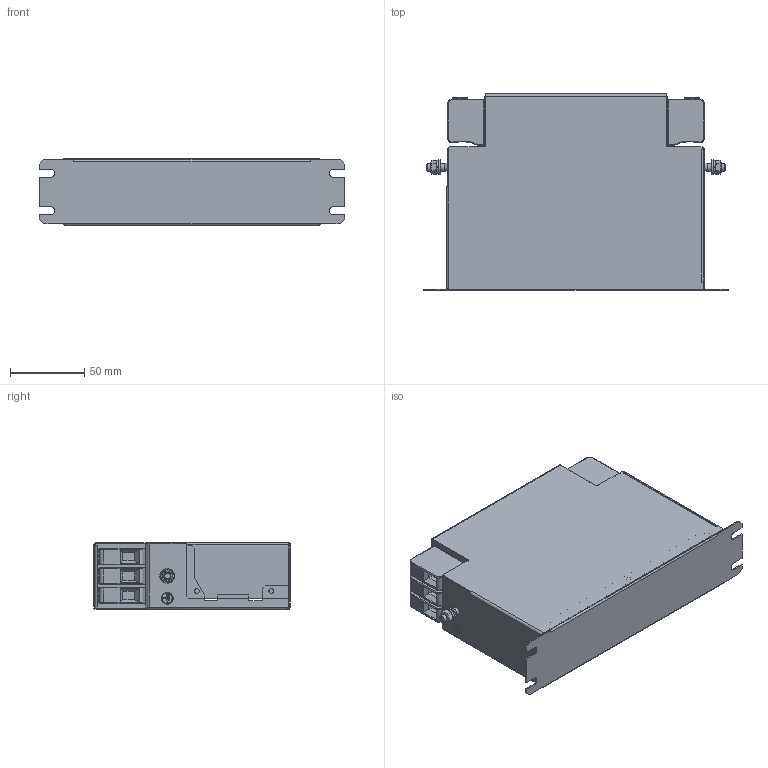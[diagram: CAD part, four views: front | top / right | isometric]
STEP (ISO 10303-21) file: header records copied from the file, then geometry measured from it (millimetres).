
FILE_DESCRIPTION(/* description */ ('raw material description'),/* implementation_level */ '2;1');
FILE_NAME(/* name */ 'C:\Users\Oliver.Volic\OneDrive - Schaffner EMV AG\Projekte\STEP\Wanda\FN3287-20_25-33.stp',/* time_stamp */ '2018-06-27T16:58:03+02:00',/* author */ ('Oliver.Volic'),/* organization */ ('Schaffner EMV AG'),/* preprocessor_version */ 'ST-DEVELOPER v16.5',/* originating_system */ 'Autodesk Inventor 2017',/* authorisation */ '');
FILE_SCHEMA (('AUTOMOTIVE_DESIGN { 1 0 10303 214 3 1 1 }'));
Length unit declared in the file: millimetre
Products named in the file (1): FN3287-20_25-33
Bounding box: 205 x 132 x 45 mm (x, y, z)
Volume: 117456.9 mm3; surface area: 162167.3 mm2
Topology: 1 solids, 8 shells, 1359 faces, 3344 edges, 1970 vertices
Faces by surface type: plane 821, cylinder 352, torus 84, sphere 72, bspline 16, cone 14
Full cylindrical faces by diameter (mm): 3.3 x13, 5 x4, 5.1 x6, 5.3 x2, 6.206 x2, 7 x2, 8 x2, 10 x8
Entity records: 40333 total; most frequent: CARTESIAN_POINT 7320, DIRECTION 6638, ORIENTED_EDGE 6402, EDGE_CURVE 3199, LINE 2312, VECTOR 2312, AXIS2_PLACEMENT_3D 2163, VERTEX_POINT 1950
